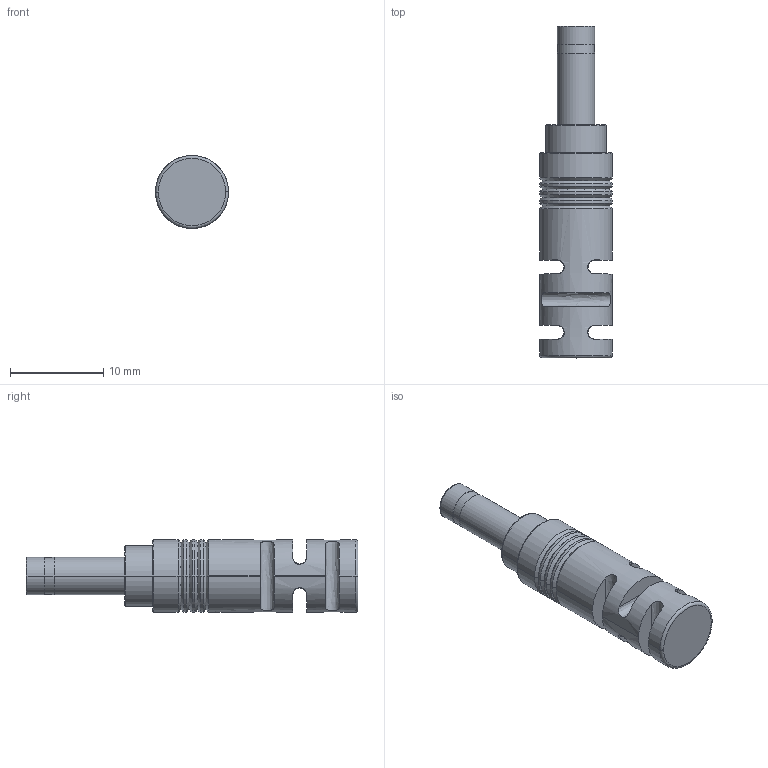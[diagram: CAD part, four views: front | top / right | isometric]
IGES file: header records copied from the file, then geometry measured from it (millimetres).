
Start section:  PTC IGES file: dcjack_plug_prt.igs
Global section: file name: dcjack_plug_prt.igs; native system: Pro/ENGINEER by Parametric Technology Corporation; preprocessor: 2000030; author: ECaille; organization: Unknown; date: 000803.091932; units: millimetre
Bounding box: 7.82 x 35.6 x 7.82 mm (x, y, z)
Surface area: 1064.8 mm2 (no closed solid volume)
Topology: 0 solids, 0 shells, 74 faces, 485 edges, 617 vertices
Faces by surface type: revolution 50, bspline 24
